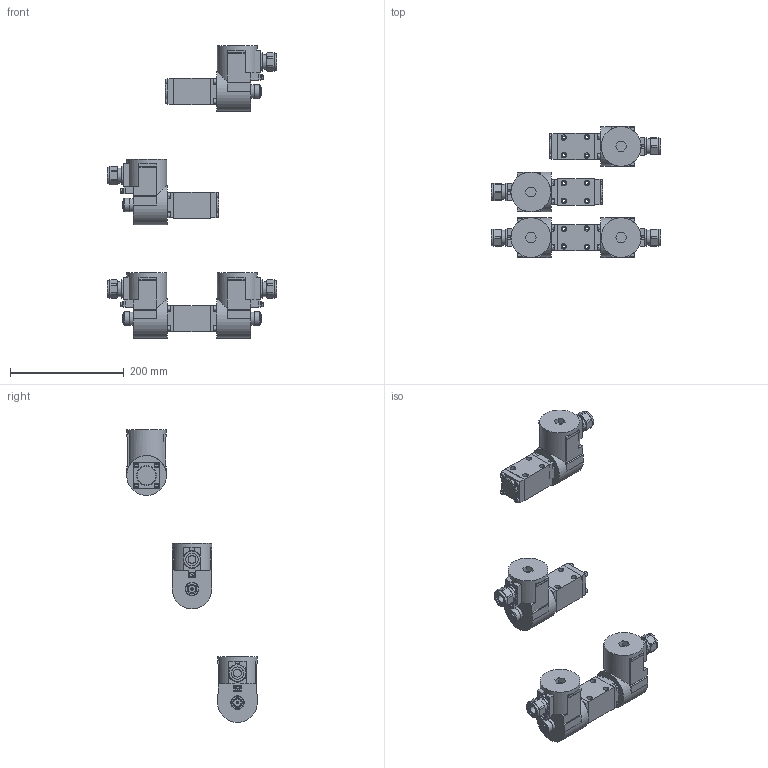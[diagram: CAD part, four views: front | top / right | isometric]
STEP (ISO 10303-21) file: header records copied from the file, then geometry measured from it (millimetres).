
FILE_DESCRIPTION(('Bauteilbeschreibung','HiCAD-Model','HiCAD-STEP-TRANSLATION','Bauteilbeschreibung'),'2;1');
FILE_NAME('K:/STEP_DXF/AEXD4_6_-S1788.STP','2006-07-24T14:56:45+00:00',('Konstrukteur'),('Konstrukteur Firma GmbH'),'HiCAD3 V1210 STEP 1.6.2005','HiCAD3 V1210','confidential');
FILE_SCHEMA(('AUTOMOTIVE_DESIGN { 1 2 10303 214 0 1 1 1 }'));
Length unit declared in the file: millimetre
Products named in the file (56): AEXD4_6__S1788; AEXD4D6__S1788; A3687F1A; A874530D; A874530D0; HB4_5; IN6KTM5; IN6KTM50; IN6KTM51; IN6KTM52; IN6KTM53; A874530D1; A874530D2; HB405; IN6KTM54; IN6KTM55; IN6KTM56; IN6KTM57; IN6KTM58; AB294FE8; AEXD4Z6_A_S1788; E028262F; A874530D3; A874530D4; HB4050; IN6KTM59; IN6KTM510; IN6KTM511; IN6KTM512; IN6KTM513; AB294FE80; F77E93F1; F77E93F10; IN6KTM514; IN6KTM515; IN6KTM516; IN6KTM517; IN6KTM518; AEXD4Z6_B_S1788; CD2FA69B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
Assembly tree (55 placements, depth 6):
  AEXD4_6__S1788
    AEXD4D6__S1788
      A3687F1A
        A874530D
        A874530D0
          HB4_5
          IN6KTM5
            IN6KTM50
            IN6KTM51
            IN6KTM52
            IN6KTM53
        A874530D1
        A874530D2
          HB405
          IN6KTM54
            IN6KTM55
            IN6KTM56
            IN6KTM57
            IN6KTM58
        AB294FE8
    AEXD4Z6_A_S1788
      E028262F
        A874530D3
        A874530D4
          HB4050
          IN6KTM59
            IN6KTM510
            IN6KTM511
            IN6KTM512
            IN6KTM513
        AB294FE80
        F77E93F1
        F77E93F10
          IN6KTM514
            IN6KTM515
            IN6KTM516
            IN6KTM517
            IN6KTM518
    AEXD4Z6_B_S1788
      CD2FA69B
        A874530D5
        A874530D6
          HB4051
          IN6KTM519
            IN6KTM520
            IN6KTM521
            IN6KTM522
            IN6KTM523
        AB294FE81
        F77E93F11
        F77E93F12
          IN6KTM524
            IN6KTM525
            IN6KTM526
            IN6KTM527
            IN6KTM528
Bounding box: 299 x 230 x 516 mm (x, y, z)
Volume: 2367200.5 mm3; surface area: 268340.4 mm2
Topology: 37 solids, 37 shells, 1104 faces, 2724 edges, 1812 vertices
Faces by surface type: plane 712, cylinder 282, cone 86, torus 24
Full cylindrical faces by diameter (mm): 2.5 x4, 4.2 x4, 5 x24, 5.5 x36, 6.8 x4, 8 x8, 8.5 x28, 9.5 x12, 12.5 x12, 14 x4, 16.5 x4, 21.5 x4, 23 x4, 24 x4, 26.4 x4, 29 x4, 35 x2, 70 x8
Entity records: 61263 total; most frequent: CARTESIAN_POINT 14170, DIRECTION 5330, ORIENTED_EDGE 4756, COLOUR_RGB 3519, PRESENTATION_STYLE_ASSIGNMENT 3519, OVER_RIDING_STYLED_ITEM 3482, CURVE_STYLE 2378, DRAUGHTING_PRE_DEFINED_CURVE_FONT 2378
